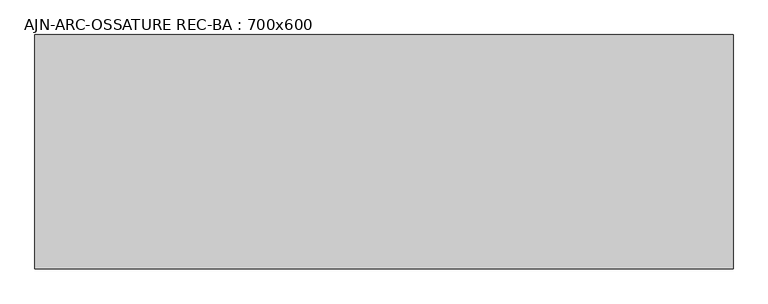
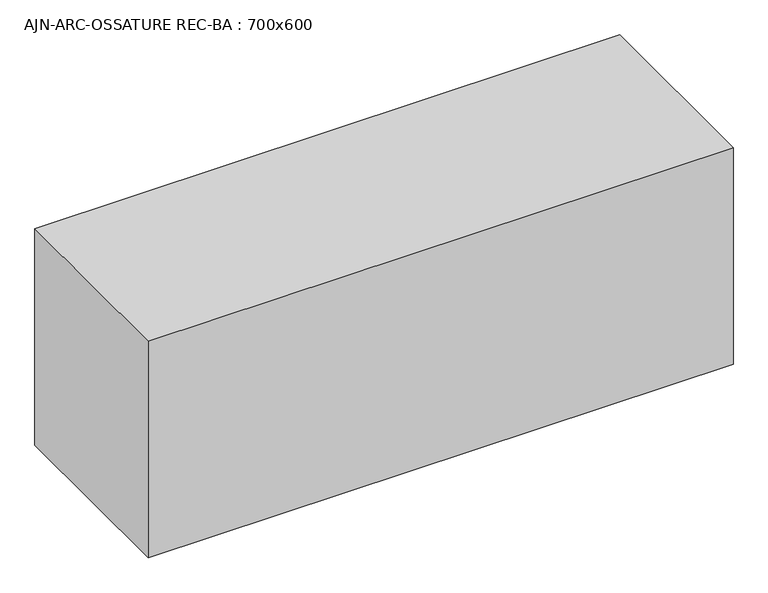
"""IFC4 building model written with IfcOpenShell, lengths in millimetres: beam geometry, AJN-ARC-OSSATURE REC-BA : 700x600."""

from ifc_helpers import new_model, si_unit, frame, origin, place, context, project, spatial, polyline, outline, extrude, source, transform, mapped, element, save


def ajn_arc_ossature_rec_ba_700x600_64ba80e1(model_context):
    return source(origin(), model_context, "Body", "SweptSolid", [
        extrude(outline(polyline([(737.3, 300.0), (737.3, -300.0), (-1050.0, -300.0), (-1050.0, 300.0), (737.3, 300.0)])), frame((0.0, 0.0, -350.0), z_axis=(0.0, 0.0, 1.0), x_axis=(1.0, 0.0, 0.0)), (0.0, 0.0, 1.0), 700.0),
    ])


if __name__ == "__main__":
    model = new_model("IFC4")
    model_context = context("Model", 3, world=origin())
    ifc_project = project(units=[si_unit("LENGTHUNIT", "METRE", prefix="MILLI")], contexts=[model_context])
    site = spatial("IfcSite", under=ifc_project)
    building = spatial("IfcBuilding", under=site)
    placement = place(None, origin())
    ajn_arc_ossature_rec_ba_700x600_shape = ajn_arc_ossature_rec_ba_700x600_64ba80e1(model_context)
    element("IfcBeam", 1, ObjectType="AJN-ARC-OSSATURE REC-BA : 700x600", at=placement, inside=building, context=model_context, shape_type="MappedRepresentation", body=[
        mapped(ajn_arc_ossature_rec_ba_700x600_shape, transform((0.0, 0.0, 0.0), x_axis=(1.0, 0.0, 0.0), y_axis=(0.0, 1.0, 0.0), z_axis=(0.0, 0.0, 1.0))),
    ])
    save(model, "model.ifc")
